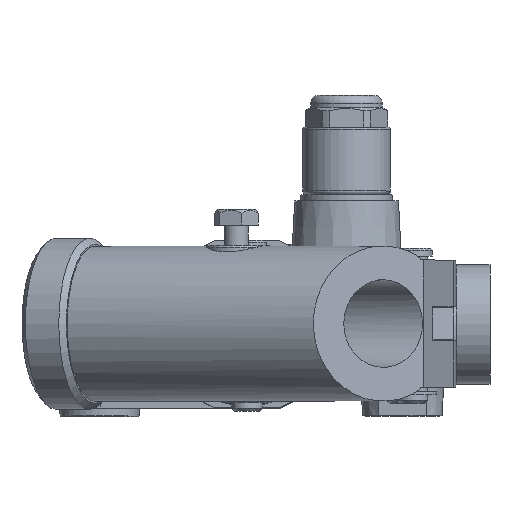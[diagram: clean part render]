
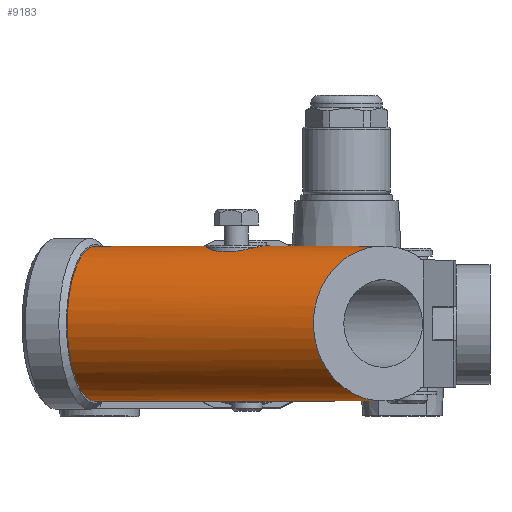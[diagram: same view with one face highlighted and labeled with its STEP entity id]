
A CAD part, top view. The second image highlights one B-rep face of the part: STEP entity #9183.
In plain terms, the highlighted cylindrical face has radius 19.48 mm (diameter 38.961 mm), a partial arc.
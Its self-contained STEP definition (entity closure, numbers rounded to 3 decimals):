
#47=ELLIPSE('',#10037,20.731,19.481);
#48=ELLIPSE('',#10042,20.731,19.481);
#49=ELLIPSE('',#10045,20.731,19.481);
#50=ELLIPSE('',#10048,22.494,19.481);
#51=ELLIPSE('',#10051,20.731,19.481);
#413=LINE('',#16524,#796);
#414=LINE('',#16525,#797);
#418=LINE('',#16535,#801);
#419=LINE('',#16537,#802);
#421=LINE('',#16543,#804);
#422=LINE('',#16547,#805);
#425=LINE('',#16555,#808);
#796=VECTOR('',#12082,1000.);
#797=VECTOR('',#12083,1000.);
#801=VECTOR('',#12093,1000.);
#802=VECTOR('',#12094,1000.);
#804=VECTOR('',#12102,1000.);
#805=VECTOR('',#12109,1000.);
#808=VECTOR('',#12118,1000.);
#1072=CYLINDRICAL_SURFACE('',#10055,19.481);
#1149=B_SPLINE_CURVE_WITH_KNOTS('',3,(#16557,#16558,#16559,#16560,#16561,
#16562),.UNSPECIFIED.,.F.,.F.,(4,1,1,4),(0.039,0.043,
0.045,0.047),.UNSPECIFIED.);
#1150=B_SPLINE_CURVE_WITH_KNOTS('',3,(#16564,#16565,#16566,#16567,#16568),
 .UNSPECIFIED.,.F.,.F.,(4,1,4),(0.,0.004,0.009),
 .UNSPECIFIED.);
#1151=B_SPLINE_CURVE_WITH_KNOTS('',3,(#16572,#16573,#16574,#16575,#16576),
 .UNSPECIFIED.,.F.,.F.,(4,1,4),(0.032,0.035,0.039),
 .UNSPECIFIED.);
#1152=B_SPLINE_CURVE_WITH_KNOTS('',3,(#16578,#16579,#16580,#16581,#16582,
#16583,#16584),.UNSPECIFIED.,.F.,.F.,(4,1,1,1,4),(0.015,0.019,
0.024,0.028,0.032),.UNSPECIFIED.);
#1153=B_SPLINE_CURVE_WITH_KNOTS('',3,(#16586,#16587,#16588,#16589,#16590),
 .UNSPECIFIED.,.F.,.F.,(4,1,4),(0.009,0.012,
0.015),.UNSPECIFIED.);
#2865=ORIENTED_EDGE('',*,*,#3814,.F.);
#2866=ORIENTED_EDGE('',*,*,#3813,.T.);
#2867=ORIENTED_EDGE('',*,*,#3810,.T.);
#2868=ORIENTED_EDGE('',*,*,#3809,.T.);
#2869=ORIENTED_EDGE('',*,*,#3808,.F.);
#2870=ORIENTED_EDGE('',*,*,#3806,.T.);
#2871=ORIENTED_EDGE('',*,*,#3805,.F.);
#2872=ORIENTED_EDGE('',*,*,#3815,.F.);
#2873=ORIENTED_EDGE('',*,*,#3818,.F.);
#2874=ORIENTED_EDGE('',*,*,#3819,.F.);
#2875=ORIENTED_EDGE('',*,*,#3820,.F.);
#2876=ORIENTED_EDGE('',*,*,#3816,.F.);
#2877=ORIENTED_EDGE('',*,*,#3804,.F.);
#2878=ORIENTED_EDGE('',*,*,#3802,.F.);
#2879=ORIENTED_EDGE('',*,*,#3799,.T.);
#2880=ORIENTED_EDGE('',*,*,#3796,.T.);
#2881=ORIENTED_EDGE('',*,*,#3798,.T.);
#2882=ORIENTED_EDGE('',*,*,#3794,.F.);
#3794=EDGE_CURVE('',#4469,#4470,#47,.T.);
#3796=EDGE_CURVE('',#4471,#4472,#4889,.T.);
#3798=EDGE_CURVE('',#4472,#4470,#413,.F.);
#3799=EDGE_CURVE('',#4473,#4471,#414,.T.);
#3802=EDGE_CURVE('',#4473,#4474,#48,.T.);
#3804=EDGE_CURVE('',#4474,#4476,#418,.F.);
#3805=EDGE_CURVE('',#4476,#4475,#419,.F.);
#3806=EDGE_CURVE('',#4477,#4475,#49,.T.);
#3808=EDGE_CURVE('',#4477,#4450,#421,.F.);
#3809=EDGE_CURVE('',#4451,#4450,#50,.T.);
#3810=EDGE_CURVE('',#4478,#4451,#422,.F.);
#3813=EDGE_CURVE('',#4479,#4478,#51,.T.);
#3814=EDGE_CURVE('',#4479,#4469,#425,.T.);
#3815=EDGE_CURVE('',#4480,#4476,#1149,.T.);
#3816=EDGE_CURVE('',#4476,#4481,#1150,.T.);
#3818=EDGE_CURVE('',#4482,#4480,#1151,.T.);
#3819=EDGE_CURVE('',#4483,#4482,#1152,.T.);
#3820=EDGE_CURVE('',#4481,#4483,#1153,.T.);
#4450=VERTEX_POINT('',#16455);
#4451=VERTEX_POINT('',#16457);
#4469=VERTEX_POINT('',#16514);
#4470=VERTEX_POINT('',#16516);
#4471=VERTEX_POINT('',#16520);
#4472=VERTEX_POINT('',#16521);
#4473=VERTEX_POINT('',#16526);
#4474=VERTEX_POINT('',#16530);
#4475=VERTEX_POINT('',#16534);
#4476=VERTEX_POINT('',#16536);
#4477=VERTEX_POINT('',#16540);
#4478=VERTEX_POINT('',#16548);
#4479=VERTEX_POINT('',#16552);
#4480=VERTEX_POINT('',#16563);
#4481=VERTEX_POINT('',#16569);
#4482=VERTEX_POINT('',#16577);
#4483=VERTEX_POINT('',#16585);
#4889=CIRCLE('',#10039,19.481);
#5546=EDGE_LOOP('',(#2865,#2866,#2867,#2868,#2869,#2870,#2871,#2872,#2873,
#2874,#2875,#2876,#2877,#2878,#2879,#2880,#2881,#2882));
#6220=FACE_BOUND('',#5546,.T.);
#9183=ADVANCED_FACE('',(#6220),#1072,.T.);
#10037=AXIS2_PLACEMENT_3D('',#16515,#12072,#12073);
#10039=AXIS2_PLACEMENT_3D('',#16519,#12077,#12078);
#10042=AXIS2_PLACEMENT_3D('',#16531,#12088,#12089);
#10045=AXIS2_PLACEMENT_3D('',#16539,#12097,#12098);
#10048=AXIS2_PLACEMENT_3D('',#16545,#12105,#12106);
#10051=AXIS2_PLACEMENT_3D('',#16553,#12114,#12115);
#10055=AXIS2_PLACEMENT_3D('',#16571,#12123,#12124);
#12072=DIRECTION('',(0.753,0.,0.658));
#12073=DIRECTION('',(-0.658,0.,0.753));
#12077=DIRECTION('',(0.933,0.,0.361));
#12078=DIRECTION('',(-0.361,0.,0.933));
#12082=DIRECTION('',(-0.933,0.,-0.361));
#12083=DIRECTION('',(-0.933,0.,-0.361));
#12088=DIRECTION('',(0.753,0.,0.658));
#12089=DIRECTION('',(-0.658,0.,0.753));
#12093=DIRECTION('',(-0.933,0.,-0.361));
#12094=DIRECTION('',(-0.933,0.,-0.361));
#12097=DIRECTION('',(1.,0.,0.02));
#12098=DIRECTION('',(0.02,0.,-1.));
#12102=DIRECTION('',(-0.933,0.,-0.361));
#12105=DIRECTION('',(-0.628,0.,-0.779));
#12106=DIRECTION('',(-0.779,0.,0.628));
#12109=DIRECTION('',(-0.933,0.,-0.361));
#12114=DIRECTION('',(1.,0.,0.02));
#12115=DIRECTION('',(0.02,0.,-1.));
#12118=DIRECTION('',(-0.933,0.,-0.361));
#12123=DIRECTION('',(-0.933,0.,-0.361));
#12124=DIRECTION('',(0.361,0.,-0.933));
#16455=CARTESIAN_POINT('',(44.208,15.984,219.343));
#16457=CARTESIAN_POINT('',(44.208,-15.984,219.343));
#16514=CARTESIAN_POINT('',(-34.329,-17.982,192.894));
#16515=CARTESIAN_POINT('',(-39.574,0.,198.899));
#16516=CARTESIAN_POINT('',(-26.987,-7.492,184.486));
#16519=CARTESIAN_POINT('',(-38.08,0.,199.477));
#16520=CARTESIAN_POINT('',(-31.597,7.493,182.704));
#16521=CARTESIAN_POINT('',(-31.597,-7.492,182.704));
#16524=CARTESIAN_POINT('',(46.676,-7.492,212.957));
#16525=CARTESIAN_POINT('',(46.676,7.493,212.957));
#16526=CARTESIAN_POINT('',(-26.987,7.493,184.486));
#16530=CARTESIAN_POINT('',(-34.329,17.982,192.894));
#16531=CARTESIAN_POINT('',(-39.574,0.,198.899));
#16534=CARTESIAN_POINT('',(13.431,17.982,211.353));
#16535=CARTESIAN_POINT('',(42.894,17.982,222.741));
#16536=CARTESIAN_POINT('',(0.031,17.982,206.174));
#16537=CARTESIAN_POINT('',(42.894,17.982,222.741));
#16539=CARTESIAN_POINT('',(13.273,0.,219.325));
#16540=CARTESIAN_POINT('',(13.508,15.984,207.477));
#16543=CARTESIAN_POINT('',(44.208,15.984,219.343));
#16545=CARTESIAN_POINT('',(34.197,0.,227.412));
#16547=CARTESIAN_POINT('',(44.208,-15.984,219.343));
#16548=CARTESIAN_POINT('',(13.508,-15.984,207.477));
#16552=CARTESIAN_POINT('',(13.431,-17.982,211.353));
#16553=CARTESIAN_POINT('',(13.273,0.,219.325));
#16555=CARTESIAN_POINT('',(42.894,-17.982,222.741));
#16557=CARTESIAN_POINT('',(4.809,19.231,212.72));
#16558=CARTESIAN_POINT('',(4.725,19.021,211.295));
#16559=CARTESIAN_POINT('',(3.98,18.538,209.217));
#16560=CARTESIAN_POINT('',(1.961,18.071,207.144));
#16561=CARTESIAN_POINT('',(0.711,17.982,206.437));
#16562=CARTESIAN_POINT('',(0.031,17.982,206.174));
#16563=CARTESIAN_POINT('',(4.809,19.231,212.72));
#16564=CARTESIAN_POINT('',(0.031,17.982,206.174));
#16565=CARTESIAN_POINT('',(-1.33,17.982,205.648));
#16566=CARTESIAN_POINT('',(-4.285,18.372,205.425));
#16567=CARTESIAN_POINT('',(-6.892,19.022,206.812));
#16568=CARTESIAN_POINT('',(-7.908,19.231,207.805));
#16569=CARTESIAN_POINT('',(-7.908,19.231,207.805));
#16571=CARTESIAN_POINT('',(40.193,0.,229.729));
#16572=CARTESIAN_POINT('',(2.567,19.231,218.52));
#16573=CARTESIAN_POINT('',(3.331,19.388,217.773));
#16574=CARTESIAN_POINT('',(4.535,19.574,215.952));
#16575=CARTESIAN_POINT('',(4.872,19.387,213.778));
#16576=CARTESIAN_POINT('',(4.809,19.231,212.72));
#16577=CARTESIAN_POINT('',(2.567,19.231,218.52));
#16578=CARTESIAN_POINT('',(-10.15,19.231,213.605));
#16579=CARTESIAN_POINT('',(-10.065,19.02,215.039));
#16580=CARTESIAN_POINT('',(-9.082,18.374,217.786));
#16581=CARTESIAN_POINT('',(-5.534,17.786,220.553));
#16582=CARTESIAN_POINT('',(-1.036,18.373,220.898));
#16583=CARTESIAN_POINT('',(1.539,19.019,219.526));
#16584=CARTESIAN_POINT('',(2.567,19.231,218.52));
#16585=CARTESIAN_POINT('',(-10.15,19.231,213.605));
#16586=CARTESIAN_POINT('',(-7.908,19.231,207.805));
#16587=CARTESIAN_POINT('',(-8.662,19.386,208.542));
#16588=CARTESIAN_POINT('',(-9.877,19.574,210.372));
#16589=CARTESIAN_POINT('',(-10.213,19.388,212.54));
#16590=CARTESIAN_POINT('',(-10.15,19.231,213.605));
